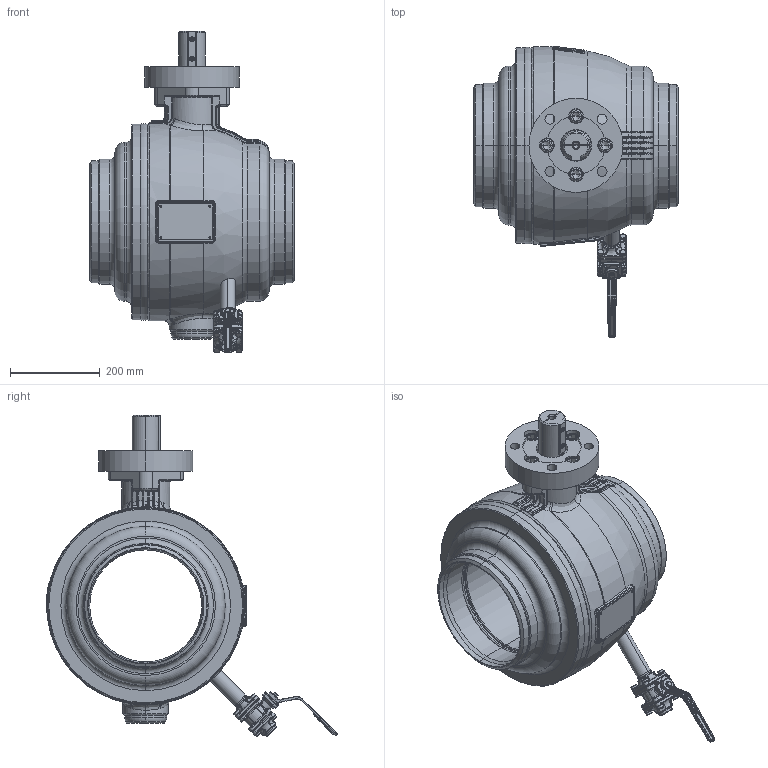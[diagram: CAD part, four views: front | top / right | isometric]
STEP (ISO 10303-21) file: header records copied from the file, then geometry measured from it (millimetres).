
FILE_DESCRIPTION((''),'2;1');
FILE_NAME('KHSVI_250_FG_FR_WE_F16_ENTL','2026-01-27T14:23:07',('schwaba'),('KLINGER'),'CREO PARAMETRIC BY PTC INC, 2023014','CREO PARAMETRIC BY PTC INC, 2023014','');
FILE_SCHEMA(('CONFIG_CONTROL_DESIGN'));
Products named in the file (1): KHSVI_250_FG_FR_WE_F16_ENTL
Bounding box: 457 x 650.58 x 718.64 mm (x, y, z)
Volume: 20424746.4 mm3; surface area: 2684628.7 mm2
Topology: 1 solids, 5 shells, 3212 faces, 7766 edges, 4650 vertices
Faces by surface type: plane 934, cylinder 843, bspline 551, torus 527, cone 304, sphere 32, revolution 16, extrusion 5
Entity records: 181992 total; most frequent: CARTESIAN_POINT 111328, ORIENTED_EDGE 15488, DIRECTION 14082, EDGE_CURVE 7744, AXIS2_PLACEMENT_3D 5925, VERTEX_POINT 4650, EDGE_LOOP 3416, CIRCLE 3282
